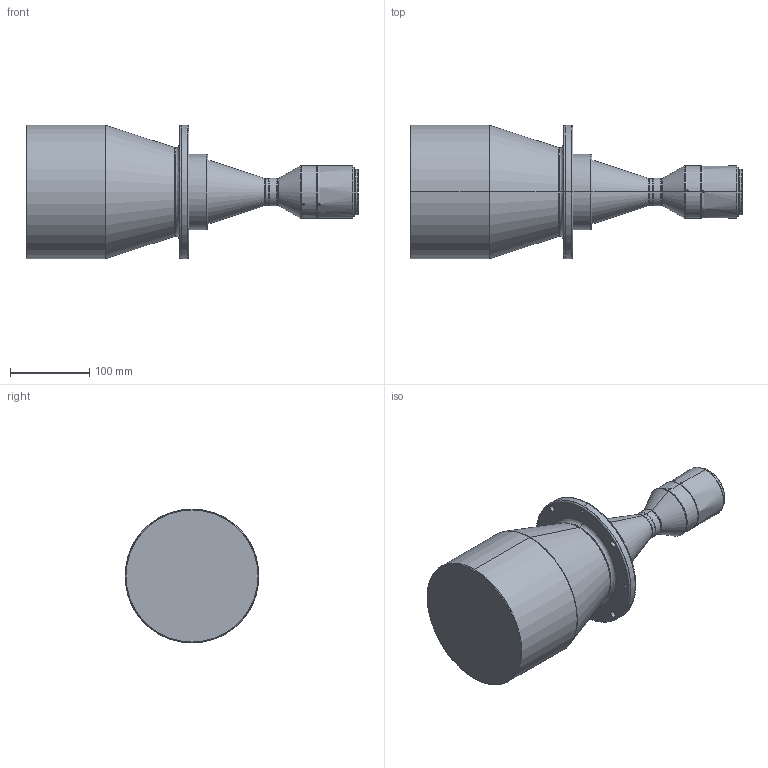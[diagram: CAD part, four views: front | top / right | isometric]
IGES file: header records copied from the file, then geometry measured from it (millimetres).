
Start section: SolidWorks IGES file using analytic representation for surfaces
Global section: file name: D:\撮扲窒\3D俋倛芞\3D   igs\DTCM\DTCM430\DTCM430-136-M58-AL.IGS; native system: SolidWorks 2012; preprocessor: SolidWorks 2012; author: ZXC; date: 181026.163527; units: millimetre
Bounding box: 419.6 x 169 x 169 mm (x, y, z)
Surface area: 203206.7 mm2 (no closed solid volume)
Topology: 0 solids, 0 shells, 109 faces, 2326 edges, 2314 vertices
Faces by surface type: revolution 82, bspline 27
